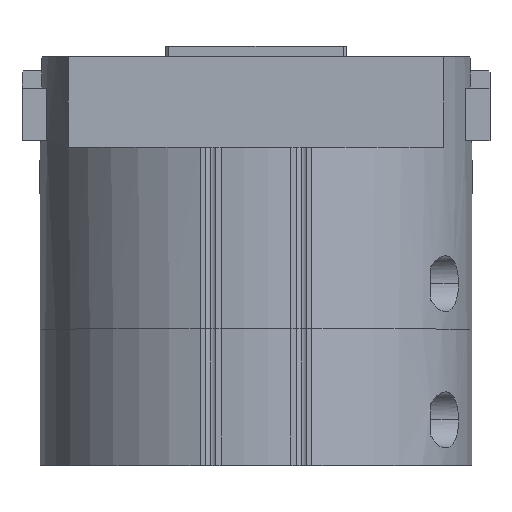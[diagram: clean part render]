
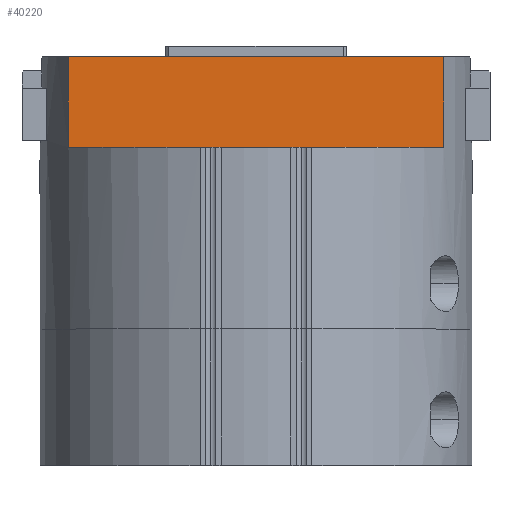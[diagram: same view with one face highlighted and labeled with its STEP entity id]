
A CAD part, top view. The second image highlights one B-rep face of the part: STEP entity #40220.
In plain terms, the highlighted planar face has unit normal (0, 0, 1).
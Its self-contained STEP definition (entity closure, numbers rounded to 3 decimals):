
#1343 = VERTEX_POINT ( 'NONE', #79727 ) ;
#1630 = CARTESIAN_POINT ( 'NONE',  ( -53.694, 52., 31. ) ) ;
#8649 = FACE_OUTER_BOUND ( 'NONE', #47983, .T. ) ;
#10574 = CARTESIAN_POINT ( 'NONE',  ( -53.694, 78., 31. ) ) ;
#12597 = CARTESIAN_POINT ( 'NONE',  ( -53.694, 78., 31. ) ) ;
#13667 = DIRECTION ( 'NONE',  ( -1., 0., 0. ) ) ;
#20552 = EDGE_CURVE ( 'NONE', #51608, #52102, #38384, .T. ) ;
#20598 = CARTESIAN_POINT ( 'NONE',  ( -53.694, 52., 31. ) ) ;
#26084 = LINE ( 'NONE', #80176, #82945 ) ;
#26088 = DIRECTION ( 'NONE',  ( 0., -1., 0. ) ) ;
#30475 = CARTESIAN_POINT ( 'NONE',  ( 0., 78., 31. ) ) ;
#31894 = ORIENTED_EDGE ( 'NONE', *, *, #68769, .F. ) ;
#38384 = LINE ( 'NONE', #30475, #77039 ) ;
#39815 = VECTOR ( 'NONE', #51782, 1000. ) ;
#40220 = ADVANCED_FACE ( 'NONE', ( #8649 ), #58797, .F. ) ;
#44612 = DIRECTION ( 'NONE',  ( -1., 0., 0. ) ) ;
#46125 = VERTEX_POINT ( 'NONE', #1630 ) ;
#47947 = ORIENTED_EDGE ( 'NONE', *, *, #52888, .F. ) ;
#47983 = EDGE_LOOP ( 'NONE', ( #47947, #31894, #68039, #73874 ) ) ;
#51465 = LINE ( 'NONE', #59951, #69550 ) ;
#51608 = VERTEX_POINT ( 'NONE', #10574 ) ;
#51782 = DIRECTION ( 'NONE',  ( 0., 1., 0. ) ) ;
#52102 = VERTEX_POINT ( 'NONE', #100299 ) ;
#52888 = EDGE_CURVE ( 'NONE', #46125, #51608, #94219, .T. ) ;
#58797 = PLANE ( 'NONE',  #74800 ) ;
#59951 = CARTESIAN_POINT ( 'NONE',  ( 0., 52., 31. ) ) ;
#68039 = ORIENTED_EDGE ( 'NONE', *, *, #96790, .F. ) ;
#68769 = EDGE_CURVE ( 'NONE', #1343, #46125, #51465, .T. ) ;
#69550 = VECTOR ( 'NONE', #13667, 1000. ) ;
#73874 = ORIENTED_EDGE ( 'NONE', *, *, #20552, .F. ) ;
#74800 = AXIS2_PLACEMENT_3D ( 'NONE', #20598, #90925, #44612 ) ;
#77039 = VECTOR ( 'NONE', #100072, 1000. ) ;
#79727 = CARTESIAN_POINT ( 'NONE',  ( 53.694, 52., 31. ) ) ;
#80176 = CARTESIAN_POINT ( 'NONE',  ( 53.694, 78., 31. ) ) ;
#82945 = VECTOR ( 'NONE', #26088, 1000. ) ;
#90925 = DIRECTION ( 'NONE',  ( 0., 0., -1. ) ) ;
#94219 = LINE ( 'NONE', #12597, #39815 ) ;
#96790 = EDGE_CURVE ( 'NONE', #52102, #1343, #26084, .T. ) ;
#100072 = DIRECTION ( 'NONE',  ( 1., 0., 0. ) ) ;
#100299 = CARTESIAN_POINT ( 'NONE',  ( 53.694, 78., 31. ) ) ;
